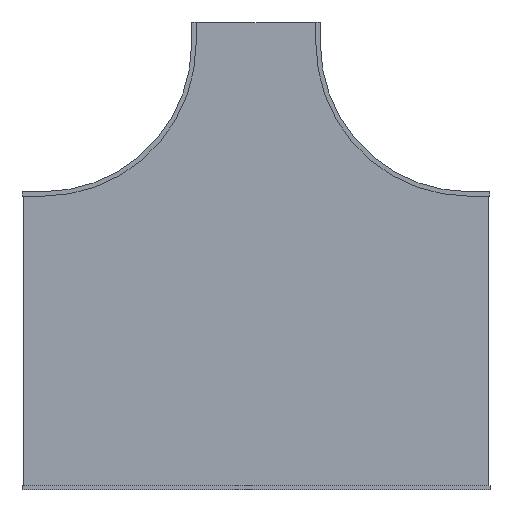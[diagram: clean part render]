
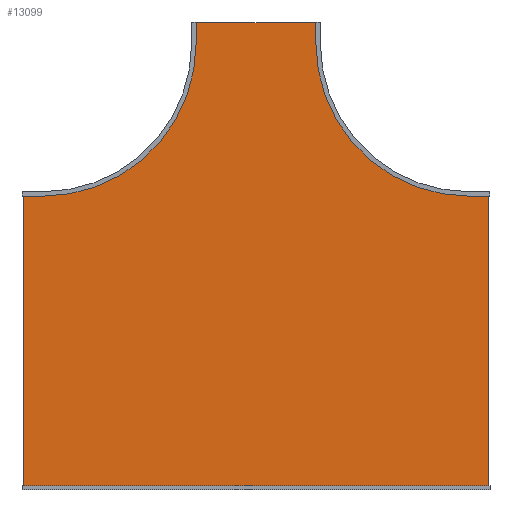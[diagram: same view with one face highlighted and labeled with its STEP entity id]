
A CAD part, front view. The second image highlights one B-rep face of the part: STEP entity #13099.
In plain terms, the highlighted planar face has unit normal (0, -1, 0).
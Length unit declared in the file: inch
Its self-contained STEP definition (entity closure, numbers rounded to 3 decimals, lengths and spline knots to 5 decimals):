
#12908=DIRECTION('',(1.,0.,0.));
#12909=VECTOR('',#12908,17.875);
#12910=CARTESIAN_POINT('',(-8.9375,0.,0.));
#12911=LINE('',#12910,#12909);
#12912=DIRECTION('',(0.,0.,-1.));
#12913=VECTOR('',#12912,2.875);
#12914=CARTESIAN_POINT('',(8.9375,0.,0.));
#12915=LINE('',#12914,#12913);
#12916=CARTESIAN_POINT('',(30.,0.,-2.875));
#12917=DIRECTION('',(0.,-1.,0.));
#12918=DIRECTION('',(-1.,0.,0.));
#12919=AXIS2_PLACEMENT_3D('',#12916,#12917,#12918);
#12921=DIRECTION('',(1.,0.,0.));
#12922=VECTOR('',#12921,2.875);
#12923=CARTESIAN_POINT('',(30.,0.,-23.9375));
#12924=LINE('',#12923,#12922);
#12925=DIRECTION('',(0.,0.,-1.));
#12926=VECTOR('',#12925,41.875);
#12927=CARTESIAN_POINT('',(32.875,0.,-23.9375));
#12928=LINE('',#12927,#12926);
#12929=DIRECTION('',(-1.,0.,0.));
#12930=VECTOR('',#12929,65.75);
#12931=CARTESIAN_POINT('',(32.875,0.,-65.8125));
#12932=LINE('',#12931,#12930);
#12933=DIRECTION('',(0.,0.,1.));
#12934=VECTOR('',#12933,41.875);
#12935=CARTESIAN_POINT('',(-32.875,0.,-65.8125));
#12936=LINE('',#12935,#12934);
#12937=DIRECTION('',(1.,0.,0.));
#12938=VECTOR('',#12937,2.875);
#12939=CARTESIAN_POINT('',(-32.875,0.,-23.9375));
#12940=LINE('',#12939,#12938);
#12941=CARTESIAN_POINT('',(-30.,0.,-2.875));
#12942=DIRECTION('',(0.,-1.,0.));
#12943=DIRECTION('',(0.,0.,-1.));
#12944=AXIS2_PLACEMENT_3D('',#12941,#12942,#12943);
#12946=DIRECTION('',(0.,0.,1.));
#12947=VECTOR('',#12946,2.875);
#12948=CARTESIAN_POINT('',(-8.9375,0.,-2.875));
#12949=LINE('',#12948,#12947);
#13032=CARTESIAN_POINT('',(-8.9375,0.,0.));
#13033=CARTESIAN_POINT('',(8.9375,0.,0.));
#13034=VERTEX_POINT('',#13032);
#13035=VERTEX_POINT('',#13033);
#13036=CARTESIAN_POINT('',(8.9375,0.,-2.875));
#13037=VERTEX_POINT('',#13036);
#13038=CARTESIAN_POINT('',(30.,0.,-23.9375));
#13039=VERTEX_POINT('',#13038);
#13040=CARTESIAN_POINT('',(32.875,0.,-23.9375));
#13041=VERTEX_POINT('',#13040);
#13042=CARTESIAN_POINT('',(32.875,0.,-65.8125));
#13043=VERTEX_POINT('',#13042);
#13044=CARTESIAN_POINT('',(-32.875,0.,-65.8125));
#13045=VERTEX_POINT('',#13044);
#13046=CARTESIAN_POINT('',(-32.875,0.,-23.9375));
#13047=VERTEX_POINT('',#13046);
#13048=CARTESIAN_POINT('',(-30.,0.,-23.9375));
#13049=VERTEX_POINT('',#13048);
#13050=CARTESIAN_POINT('',(-8.9375,0.,-2.875));
#13051=VERTEX_POINT('',#13050);
#13072=CARTESIAN_POINT('',(0.,0.,0.));
#13073=DIRECTION('',(0.,1.,0.));
#13074=DIRECTION('',(1.,0.,0.));
#13075=AXIS2_PLACEMENT_3D('',#13072,#13073,#13074);
#13076=PLANE('',#13075);
#13078=ORIENTED_EDGE('',*,*,#13077,.T.);
#13080=ORIENTED_EDGE('',*,*,#13079,.T.);
#13082=ORIENTED_EDGE('',*,*,#13081,.T.);
#13084=ORIENTED_EDGE('',*,*,#13083,.T.);
#13086=ORIENTED_EDGE('',*,*,#13085,.T.);
#13088=ORIENTED_EDGE('',*,*,#13087,.T.);
#13090=ORIENTED_EDGE('',*,*,#13089,.T.);
#13092=ORIENTED_EDGE('',*,*,#13091,.T.);
#13094=ORIENTED_EDGE('',*,*,#13093,.T.);
#13096=ORIENTED_EDGE('',*,*,#13095,.T.);
#13097=EDGE_LOOP('',(#13078,#13080,#13082,#13084,#13086,#13088,#13090,#13092,
#13094,#13096));
#13098=FACE_OUTER_BOUND('',#13097,.F.);
#13099=ADVANCED_FACE('',(#13098),#13076,.F.);
#12920=CIRCLE('',#12919,21.0625);
#12945=CIRCLE('',#12944,21.0625);
#13077=EDGE_CURVE('',#13034,#13035,#12911,.T.);
#13079=EDGE_CURVE('',#13035,#13037,#12915,.T.);
#13081=EDGE_CURVE('',#13037,#13039,#12920,.T.);
#13083=EDGE_CURVE('',#13039,#13041,#12924,.T.);
#13085=EDGE_CURVE('',#13041,#13043,#12928,.T.);
#13087=EDGE_CURVE('',#13043,#13045,#12932,.T.);
#13089=EDGE_CURVE('',#13045,#13047,#12936,.T.);
#13091=EDGE_CURVE('',#13047,#13049,#12940,.T.);
#13093=EDGE_CURVE('',#13049,#13051,#12945,.T.);
#13095=EDGE_CURVE('',#13051,#13034,#12949,.T.);
